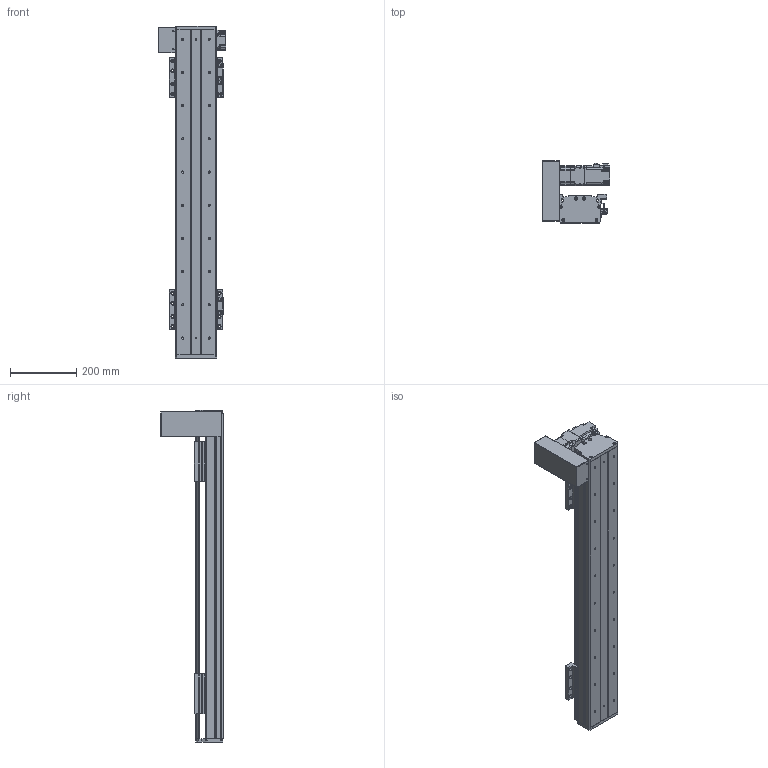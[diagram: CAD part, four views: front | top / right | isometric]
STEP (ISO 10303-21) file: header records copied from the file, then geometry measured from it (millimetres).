
FILE_DESCRIPTION(/* description */ (''),/* implementation_level */ '2;1');
FILE_NAME(/* name */ 'C:\Users\PC\Desktop\3D도면\STEP\DSB125-UL2G-W0700-R.stp',/* time_stamp */ '2018-06-19T00:40:38-07:00',/* author */ ('PC'),/* organization */ (''),/* preprocessor_version */ 'ST-DEVELOPER v16.5',/* originating_system */ 'Autodesk Inventor 2017',/* authorisation */ '');
FILE_SCHEMA (('AUTOMOTIVE_DESIGN { 1 0 10303 214 3 1 1 }'));
Length unit declared in the file: millimetre
Products named in the file (12): DSB125-L-300ST; DSR125-BASE(S-TYPE); DSR125-UP COVER-R01(170203); DSR125-REAR COVER-R01(170203); DSR125-REAR COVER-R01(170203)_1; hg-kr23_; ab0601-p0401200402; 13-BELT COVER; DSR126-SENSOR DOG; SENSOR BRACKET(EE-SX674A); pm-y65_step; DSR125-TABLE(MSA15X)
Assembly tree (16 placements, depth 2):
  DSB125-L-300ST
    DSR125-BASE(S-TYPE)
    DSR125-UP COVER-R01(170203)
    DSR125-REAR COVER-R01(170203)
    DSR125-REAR COVER-R01(170203)_1
    hg-kr23_
    ab0601-p0401200402
    13-BELT COVER
    DSR126-SENSOR DOG
    SENSOR BRACKET(EE-SX674A)  x3
    pm-y65_step  x3
    DSR125-TABLE(MSA15X)  x2
Bounding box: 202.1 x 187 x 1000 mm (x, y, z)
Volume: 3977591.6 mm3; surface area: 1148271.6 mm2
Topology: 17 solids, 22 shells, 1661 faces, 4501 edges, 2970 vertices
Faces by surface type: plane 908, cylinder 631, cone 110, sphere 8, torus 4
Full cylindrical faces by diameter (mm): 2.459 x20, 3.242 x16, 3.5 x6, 4 x1, 4.134 x16, 4.2 x4, 4.3 x1, 4.5 x50, 4.917 x20, 5 x27, 5.3 x1, 5.5 x4, 5.6 x8, 5.8 x4, 5.9 x8, 6 x4, 6.6 x22, 6.647 x20, 7.5 x32, 8.5 x8, 8.7 x1, 11 x22, 14 x1, 16 x2, 17 x1, 20 x1, 47 x1, 50 x3
Entity records: 35350 total; most frequent: CARTESIAN_POINT 6499, DIRECTION 6124, ORIENTED_EDGE 5478, EDGE_CURVE 2744, AXIS2_PLACEMENT_3D 2250, VERTEX_POINT 1953, EDGE_LOOP 1673, LINE 1624
